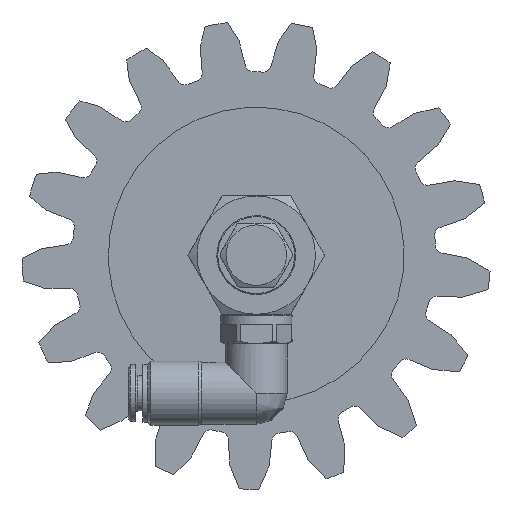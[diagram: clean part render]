
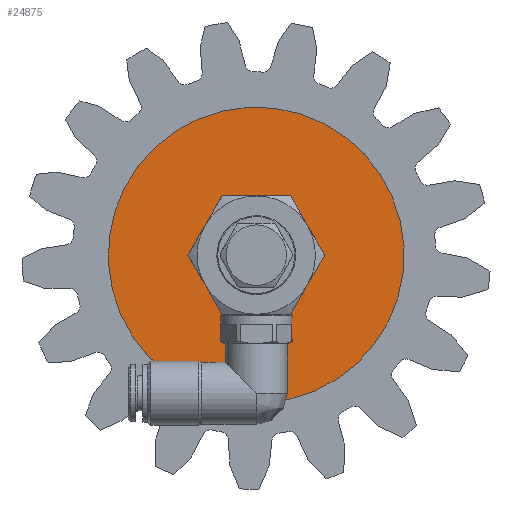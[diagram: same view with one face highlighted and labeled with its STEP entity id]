
A CAD part, front view. The second image highlights one B-rep face of the part: STEP entity #24875.
In plain terms, the highlighted planar face has unit normal (0, -1, 0) as drawn and (0, 0, 1) by its records, which use the part's own axes.
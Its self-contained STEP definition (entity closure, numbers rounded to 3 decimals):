
#4331 = EDGE_CURVE ( 'NONE', #8824, #8824, #34408, .T. ) ;
#6550 = CARTESIAN_POINT ( 'NONE',  ( 0., 30., 0. ) ) ;
#8824 = VERTEX_POINT ( 'NONE', #23847 ) ;
#10844 = CARTESIAN_POINT ( 'NONE',  ( 0., 0., 0. ) ) ;
#11631 = EDGE_CURVE ( 'NONE', #29218, #29218, #47592, .T. ) ;
#13650 = AXIS2_PLACEMENT_3D ( 'NONE', #6550, #21554, #28203 ) ;
#13777 = AXIS2_PLACEMENT_3D ( 'NONE', #10844, #21690, #18728 ) ;
#14150 = CARTESIAN_POINT ( 'NONE',  ( 0., 0., 0. ) ) ;
#16908 = FACE_BOUND ( 'NONE', #17560, .T. ) ;
#17560 = EDGE_LOOP ( 'NONE', ( #34375 ) ) ;
#18728 = DIRECTION ( 'NONE',  ( 1., 0., 0. ) ) ;
#21554 = DIRECTION ( 'NONE',  ( 0., 0., -1. ) ) ;
#21690 = DIRECTION ( 'NONE',  ( 0., 0., 1. ) ) ;
#23847 = CARTESIAN_POINT ( 'NONE',  ( 5.286, 0., 0. ) ) ;
#24619 = EDGE_LOOP ( 'NONE', ( #48361 ) ) ;
#24875 = ADVANCED_FACE ( 'NONE', ( #16908, #25245 ), #31894, .F. ) ;
#25245 = FACE_OUTER_BOUND ( 'NONE', #24619, .T. ) ;
#25298 = CARTESIAN_POINT ( 'NONE',  ( 30., 0., 0. ) ) ;
#28203 = DIRECTION ( 'NONE',  ( -1., 0., 0. ) ) ;
#29218 = VERTEX_POINT ( 'NONE', #25298 ) ;
#31894 = PLANE ( 'NONE',  #13650 ) ;
#32849 = DIRECTION ( 'NONE',  ( 0., 0., 1. ) ) ;
#34375 = ORIENTED_EDGE ( 'NONE', *, *, #4331, .F. ) ;
#34408 = CIRCLE ( 'NONE', #35229, 5.286 ) ;
#35229 = AXIS2_PLACEMENT_3D ( 'NONE', #14150, #32849, #44433 ) ;
#44433 = DIRECTION ( 'NONE',  ( 1., 0., 0. ) ) ;
#47592 = CIRCLE ( 'NONE', #13777, 30. ) ;
#48361 = ORIENTED_EDGE ( 'NONE', *, *, #11631, .T. ) ;
